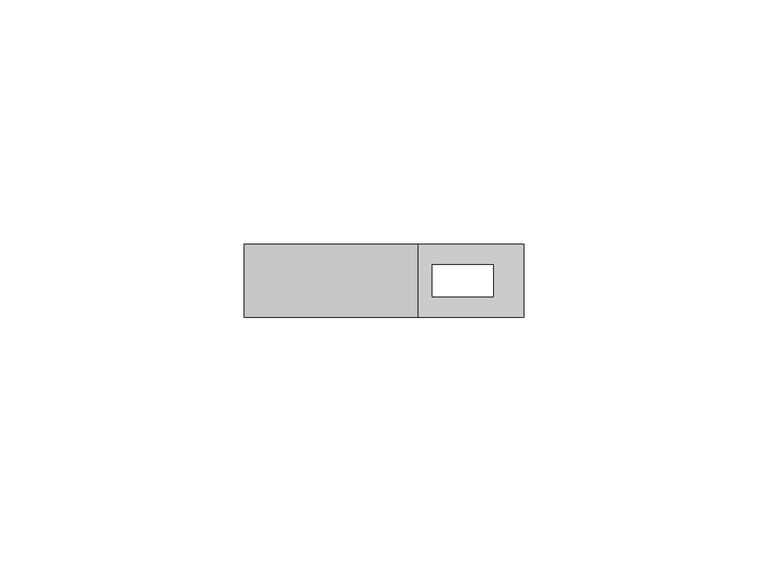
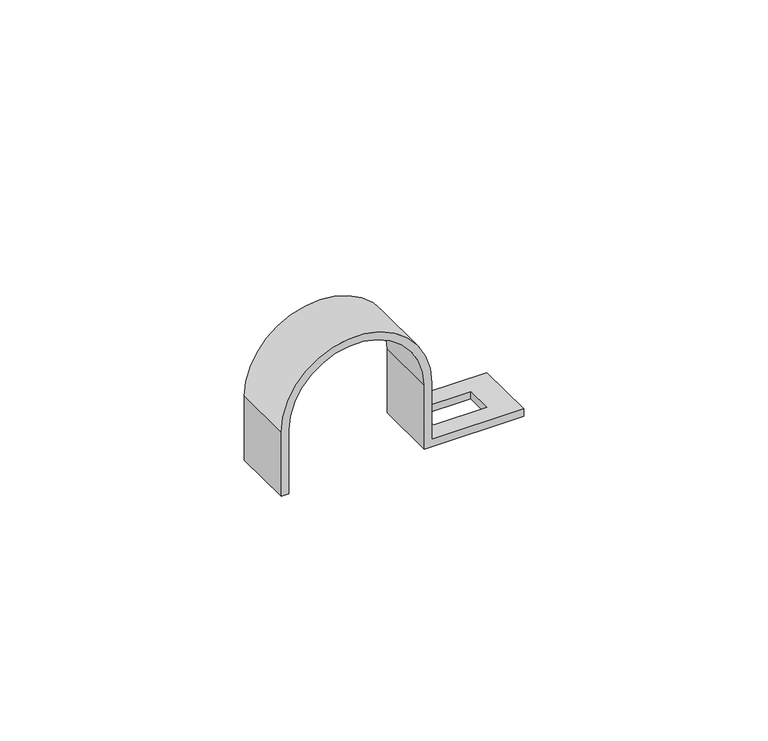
"""IFC4 building model written with IfcOpenShell, lengths in millimetres: cable carrier fitting geometry."""

from ifc_helpers import new_model, si_unit, frame, origin, place, context, project, spatial, polyline, circle_curve, source, transform, mapped, element, save
from ifc_brep_helpers import plane_surface, cylinder_surface, revolved_surface, advanced_brep


def cable_carrier_fitting_868b71e6(model_context):
    return source(origin(), model_context, "Body", "AdvancedBrep", [
        advanced_brep(
        [(39.5, -7.5, 0.0), (39.5, -7.5, 1.8), (17.8, -7.5, 1.8), (17.8, -7.5, 16.0), (-17.8, -7.5, 16.0), (-17.8, -7.5, 0.0), (-16.0, -7.5, 0.0), (-16.0, -7.5, 16.0), (16.0, -7.5, 16.0), (16.0, -7.5, 0.0), (39.5, 7.5, 0.0), (16.0, 7.5, 0.0), (16.0, 7.5, 16.0), (-16.0, 7.5, 16.0), (-16.0, 7.5, 0.0), (-17.8, 7.5, 0.0), (-17.8, 7.5, 16.0), (17.8, 7.5, 16.0), (17.8, 7.5, 1.8), (39.5, 7.5, 1.8), (33.25, -3.25, 1.8), (20.75, -3.25, 1.8), (20.75, 3.25, 1.8), (33.25, 3.25, 1.8), (20.75, -3.25, 0.0), (33.25, -3.25, 0.0), (33.25, 3.25, 0.0), (20.75, 3.25, 0.0)],
        [
            (0, 1),
            (1, 2),
            (2, 3),
            (3, 4, circle_curve(frame((0.0, -7.5, 16.0), z_axis=(0.0, -1.0, 0.0), x_axis=(1.0, 0.0, 0.0)), 17.8)),
            (4, 5),
            (5, 6),
            (6, 7),
            (7, 8, circle_curve(frame((0.0, -7.5, 16.0), z_axis=(0.0, 1.0, 0.0), x_axis=(1.0, 0.0, 0.0)), 16.0)),
            (8, 9),
            (9, 0),
            (10, 11),
            (11, 12),
            (12, 13, circle_curve(frame((0.0, 7.5, 16.0), z_axis=(0.0, -1.0, 0.0), x_axis=(1.0, 0.0, 0.0)), 16.0)),
            (13, 14),
            (14, 15),
            (15, 16),
            (16, 17, circle_curve(frame((0.0, 7.5, 16.0), z_axis=(0.0, 1.0, 0.0), x_axis=(1.0, 0.0, 0.0)), 17.8)),
            (17, 18),
            (18, 19),
            (19, 10),
            (0, 10),
            (19, 1),
            (18, 2),
            (20, 21),
            (21, 22),
            (22, 23),
            (23, 20),
            (17, 3),
            (16, 4),
            (15, 5),
            (14, 6),
            (13, 7),
            (12, 8),
            (11, 9),
            (24, 25),
            (25, 26),
            (26, 27),
            (27, 24),
            (24, 21),
            (20, 25),
            (23, 26),
            (22, 27),
        ],
        [
            plane_surface(frame((39.5, -7.5, 1.8), z_axis=(0.0, -1.0, 0.0), x_axis=(0.0, 0.0, 1.0))),
            plane_surface(frame((39.5, 7.5, 1.8), z_axis=(0.0, 1.0, 0.0), x_axis=(0.0, 0.0, -1.0))),
            plane_surface(frame((39.5, -7.5, 0.0), z_axis=(1.0, 0.0, 0.0), x_axis=(0.0, 1.0, 0.0))),
            plane_surface(frame((39.5, -7.5, 1.8), z_axis=(0.0, 0.0, 1.0), x_axis=(0.0, 1.0, 0.0))),
            plane_surface(frame((17.8, -7.5, 1.8), z_axis=(1.0, 0.0, 0.0), x_axis=(0.0, 1.0, 0.0))),
            cylinder_surface(frame((0.0, 7.5, 16.0), z_axis=(0.0, -1.0, 0.0), x_axis=(1.0, 0.0, 0.0)), 17.8),
            plane_surface(frame((-17.8, -7.5, 16.0), z_axis=(-1.0, 0.0, 0.0), x_axis=(0.0, 1.0, 0.0))),
            plane_surface(frame((-17.8, -7.5, 0.0), z_axis=(0.0, 0.0, -1.0), x_axis=(0.0, 1.0, 0.0))),
            plane_surface(frame((-16.0, -7.5, 0.0), z_axis=(1.0, 0.0, 0.0), x_axis=(0.0, 1.0, 0.0))),
            revolved_surface(polyline([(16.0, 7.5, 16.0), (16.0, -7.5, 16.0)]), (0.0, 7.5, 16.0), (0.0, 1.0, 0.0)),
            plane_surface(frame((16.0, -7.5, 16.0), z_axis=(-1.0, 0.0, 0.0), x_axis=(0.0, 1.0, 0.0))),
            plane_surface(frame((16.0, -7.5, 0.0), z_axis=(0.0, 0.0, -1.0), x_axis=(0.0, 1.0, 0.0))),
            plane_surface(frame((20.75, -3.25, 21.959409), z_axis=(0.0, 1.0, 0.0), x_axis=(0.0, 0.0, -1.0))),
            plane_surface(frame((33.25, -3.25, 21.959409), z_axis=(-1.0, 0.0, 0.0), x_axis=(0.0, 0.0, -1.0))),
            plane_surface(frame((33.25, 3.25, 21.959409), z_axis=(0.0, -1.0, 0.0), x_axis=(0.0, 0.0, -1.0))),
            plane_surface(frame((20.75, 3.25, 21.959409), z_axis=(1.0, 0.0, 0.0), x_axis=(0.0, 0.0, -1.0))),
        ],
        [
            (0, [[1, 2, 3, 4, 5, 6, 7, 8, 9, 10]]),
            (1, [[11, 12, 13, 14, 15, 16, 17, 18, 19, 20]]),
            (2, [[-1, 21, -20, 22]]),
            (3, [[-2, -22, -19, 23], [24, 25, 26, 27]]),
            (4, [[-3, -23, -18, 28]]),
            (5, [[-4, -28, -17, 29]]),
            (6, [[-5, -29, -16, 30]]),
            (7, [[-6, -30, -15, 31]]),
            (8, [[-7, -31, -14, 32]]),
            (9, [[-8, -32, -13, 33]]),
            (10, [[-9, -33, -12, 34]]),
            (11, [[-10, -34, -11, -21], [35, 36, 37, 38]]),
            (12, [[39, -24, 40, -35]]),
            (13, [[-40, -27, 41, -36]]),
            (14, [[-41, -26, 42, -37]]),
            (15, [[-39, -38, -42, -25]]),
        ],
    ),
    ])


if __name__ == "__main__":
    model = new_model("IFC4")
    model_context = context("Model", 3, world=origin())
    ifc_project = project(units=[si_unit("LENGTHUNIT", "METRE", prefix="MILLI")], contexts=[model_context])
    site = spatial("IfcSite", under=ifc_project)
    building = spatial("IfcBuilding", under=site)
    placement = place(None, origin())
    cable_carrier_fitting_shape = cable_carrier_fitting_868b71e6(model_context)
    element("IfcCableCarrierFitting", 1, at=placement, inside=building, context=model_context, shape_type="MappedRepresentation", body=[
        mapped(cable_carrier_fitting_shape, transform((0.0, 0.0, 0.0), x_axis=(1.0, 0.0, 0.0), y_axis=(0.0, 1.0, 0.0), z_axis=(0.0, 0.0, 1.0))),
    ])
    save(model, "model.ifc")
